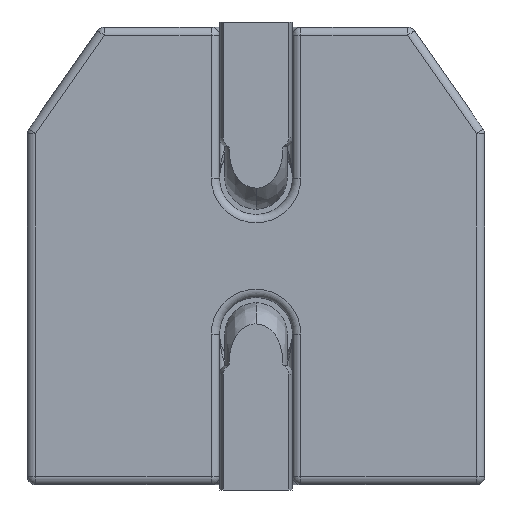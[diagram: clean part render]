
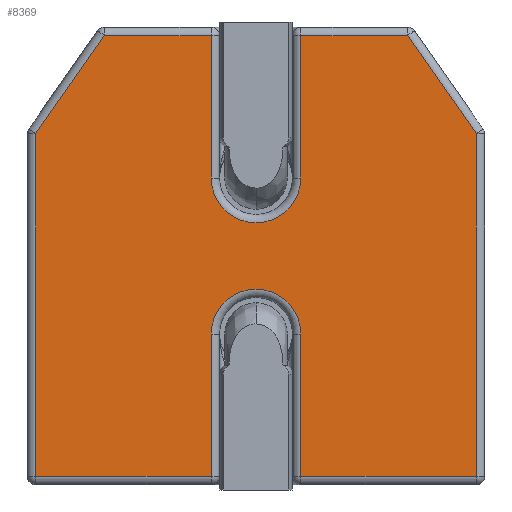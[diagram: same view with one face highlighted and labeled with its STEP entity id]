
A CAD part, left-side view. The second image highlights one B-rep face of the part: STEP entity #8369.
In plain terms, the highlighted planar face has unit normal (-1, 0, 0) as drawn and (0, -1, 0) by its records, which use the part's own axes.
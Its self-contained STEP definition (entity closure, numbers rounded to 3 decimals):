
#6015=DIRECTION('',(0.,0.,1.));
#6016=VECTOR('',#6015,3.295);
#6017=CARTESIAN_POINT('',(-2.12,0.,-2.12));
#6018=LINE('',#6017,#6016);
#6019=DIRECTION('',(-0.573,0.,-0.819));
#6020=VECTOR('',#6019,1.154);
#6021=CARTESIAN_POINT('',(-1.458,0.,2.12));
#6022=LINE('',#6021,#6020);
#6023=DIRECTION('',(-1.,0.,0.));
#6024=VECTOR('',#6023,1.028);
#6025=CARTESIAN_POINT('',(-0.43,0.,2.12));
#6026=LINE('',#6025,#6024);
#6027=DIRECTION('',(0.,0.,1.));
#6028=VECTOR('',#6027,1.37);
#6029=CARTESIAN_POINT('',(-0.43,0.,0.75));
#6030=LINE('',#6029,#6028);
#6031=DIRECTION('',(0.,0.,-1.));
#6032=VECTOR('',#6031,1.37);
#6033=CARTESIAN_POINT('',(0.43,0.,2.12));
#6034=LINE('',#6033,#6032);
#6035=DIRECTION('',(-1.,0.,0.));
#6036=VECTOR('',#6035,1.028);
#6037=CARTESIAN_POINT('',(1.458,0.,2.12));
#6038=LINE('',#6037,#6036);
#6039=DIRECTION('',(-0.573,0.,0.819));
#6040=VECTOR('',#6039,1.154);
#6041=CARTESIAN_POINT('',(2.12,0.,1.175));
#6042=LINE('',#6041,#6040);
#6043=DIRECTION('',(0.,0.,1.));
#6044=VECTOR('',#6043,3.295);
#6045=CARTESIAN_POINT('',(2.12,0.,-2.12));
#6046=LINE('',#6045,#6044);
#6047=DIRECTION('',(1.,0.,0.));
#6048=VECTOR('',#6047,1.69);
#6049=CARTESIAN_POINT('',(0.43,0.,-2.12));
#6050=LINE('',#6049,#6048);
#6051=DIRECTION('',(0.,0.,-1.));
#6052=VECTOR('',#6051,1.37);
#6053=CARTESIAN_POINT('',(0.43,0.,-0.75));
#6054=LINE('',#6053,#6052);
#6055=DIRECTION('',(0.,0.,1.));
#6056=VECTOR('',#6055,1.37);
#6057=CARTESIAN_POINT('',(-0.43,0.,-2.12));
#6058=LINE('',#6057,#6056);
#6059=DIRECTION('',(1.,0.,0.));
#6060=VECTOR('',#6059,1.69);
#6061=CARTESIAN_POINT('',(-2.12,0.,-2.12));
#6062=LINE('',#6061,#6060);
#6093=CARTESIAN_POINT('',(0.,0.,-0.75));
#6094=DIRECTION('',(0.,1.,0.));
#6095=DIRECTION('',(-1.,0.,0.));
#6096=AXIS2_PLACEMENT_3D('',#6093,#6094,#6095);
#7566=CARTESIAN_POINT('',(0.,0.,0.75));
#7567=DIRECTION('',(0.,1.,0.));
#7568=DIRECTION('',(1.,0.,0.));
#7569=AXIS2_PLACEMENT_3D('',#7566,#7567,#7568);
#8145=CARTESIAN_POINT('',(0.43,0.,-2.12));
#8146=CARTESIAN_POINT('',(2.12,0.,-2.12));
#8147=VERTEX_POINT('',#8145);
#8148=VERTEX_POINT('',#8146);
#8149=CARTESIAN_POINT('',(-0.43,0.,-2.12));
#8150=CARTESIAN_POINT('',(-0.43,0.,-0.75));
#8151=VERTEX_POINT('',#8149);
#8152=VERTEX_POINT('',#8150);
#8159=CARTESIAN_POINT('',(0.43,0.,-0.75));
#8160=VERTEX_POINT('',#8159);
#8196=CARTESIAN_POINT('',(-2.12,0.,-2.12));
#8197=VERTEX_POINT('',#8196);
#8198=CARTESIAN_POINT('',(-2.12,0.,1.175));
#8199=VERTEX_POINT('',#8198);
#8294=CARTESIAN_POINT('',(2.12,0.,1.175));
#8295=VERTEX_POINT('',#8294);
#8296=CARTESIAN_POINT('',(1.458,0.,2.12));
#8297=VERTEX_POINT('',#8296);
#8298=CARTESIAN_POINT('',(0.43,0.,2.12));
#8299=VERTEX_POINT('',#8298);
#8300=CARTESIAN_POINT('',(0.43,0.,0.75));
#8301=VERTEX_POINT('',#8300);
#8308=CARTESIAN_POINT('',(-0.43,0.,0.75));
#8309=CARTESIAN_POINT('',(-0.43,0.,2.12));
#8310=VERTEX_POINT('',#8308);
#8311=VERTEX_POINT('',#8309);
#8312=CARTESIAN_POINT('',(-1.458,0.,2.12));
#8313=VERTEX_POINT('',#8312);
#8334=CARTESIAN_POINT('',(0.,0.,0.));
#8335=DIRECTION('',(0.,1.,0.));
#8336=DIRECTION('',(0.,0.,1.));
#8337=AXIS2_PLACEMENT_3D('',#8334,#8335,#8336);
#8338=PLANE('',#8337);
#8340=ORIENTED_EDGE('',*,*,#8339,.T.);
#8342=ORIENTED_EDGE('',*,*,#8341,.F.);
#8344=ORIENTED_EDGE('',*,*,#8343,.F.);
#8346=ORIENTED_EDGE('',*,*,#8345,.F.);
#8348=ORIENTED_EDGE('',*,*,#8347,.F.);
#8350=ORIENTED_EDGE('',*,*,#8349,.F.);
#8352=ORIENTED_EDGE('',*,*,#8351,.F.);
#8354=ORIENTED_EDGE('',*,*,#8353,.F.);
#8356=ORIENTED_EDGE('',*,*,#8355,.F.);
#8358=ORIENTED_EDGE('',*,*,#8357,.F.);
#8360=ORIENTED_EDGE('',*,*,#8359,.F.);
#8362=ORIENTED_EDGE('',*,*,#8361,.F.);
#8364=ORIENTED_EDGE('',*,*,#8363,.F.);
#8366=ORIENTED_EDGE('',*,*,#8365,.F.);
#8367=EDGE_LOOP('',(#8340,#8342,#8344,#8346,#8348,#8350,#8352,#8354,#8356,#8358,
#8360,#8362,#8364,#8366));
#8368=FACE_OUTER_BOUND('',#8367,.F.);
#8369=ADVANCED_FACE('',(#8368),#8338,.F.);
#6097=CIRCLE('',#6096,0.43);
#7570=CIRCLE('',#7569,0.43);
#8339=EDGE_CURVE('',#8197,#8199,#6018,.T.);
#8341=EDGE_CURVE('',#8313,#8199,#6022,.T.);
#8343=EDGE_CURVE('',#8311,#8313,#6026,.T.);
#8345=EDGE_CURVE('',#8310,#8311,#6030,.T.);
#8347=EDGE_CURVE('',#8301,#8310,#7570,.T.);
#8349=EDGE_CURVE('',#8299,#8301,#6034,.T.);
#8351=EDGE_CURVE('',#8297,#8299,#6038,.T.);
#8353=EDGE_CURVE('',#8295,#8297,#6042,.T.);
#8355=EDGE_CURVE('',#8148,#8295,#6046,.T.);
#8357=EDGE_CURVE('',#8147,#8148,#6050,.T.);
#8359=EDGE_CURVE('',#8160,#8147,#6054,.T.);
#8361=EDGE_CURVE('',#8152,#8160,#6097,.T.);
#8363=EDGE_CURVE('',#8151,#8152,#6058,.T.);
#8365=EDGE_CURVE('',#8197,#8151,#6062,.T.);
